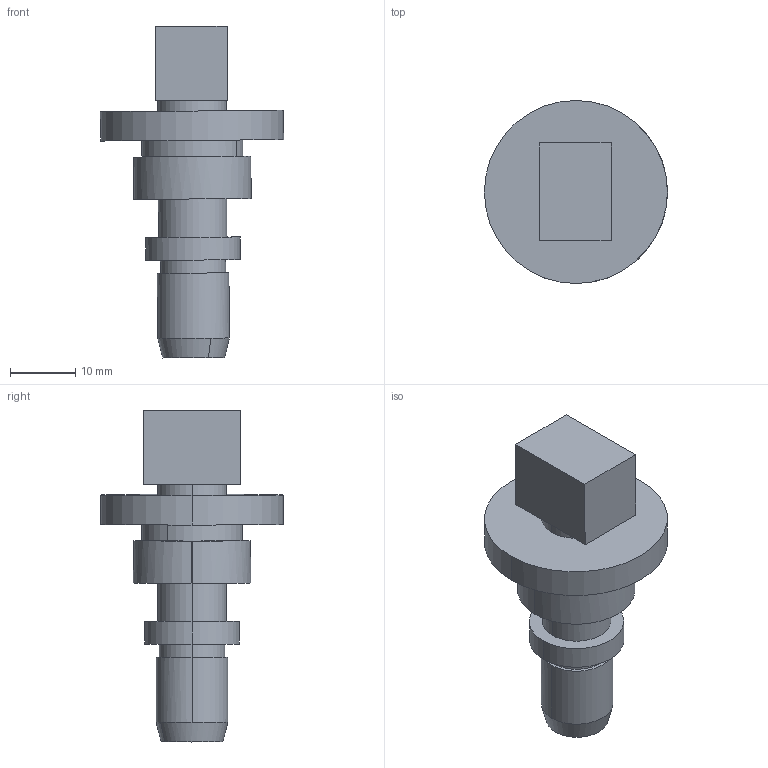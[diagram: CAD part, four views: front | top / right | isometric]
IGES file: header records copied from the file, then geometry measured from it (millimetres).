
Start section: START RECORD GO HERE.
Global section: file name: RI_sensor.igs; native system: DASSAULT SYSTEMES CATIA V5 R21 - www.3ds.com; preprocessor: CATIA Version 5 Release 21 SP 6 ; author: ilya; organization: KAA-PC; date: 20161106.142827; units: millimetre
Bounding box: 28.13 x 28.1 x 50.97 mm (x, y, z)
Surface area: 4978.5 mm2 (no closed solid volume)
Topology: 0 solids, 0 shells, 32 faces, 136 edges, 136 vertices
Faces by surface type: revolution 18, plane 14
